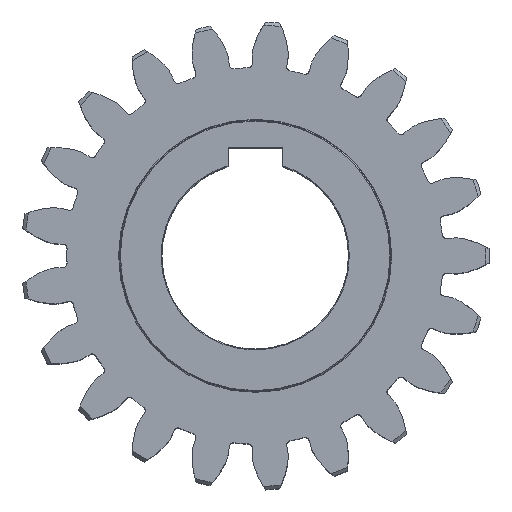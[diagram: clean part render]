
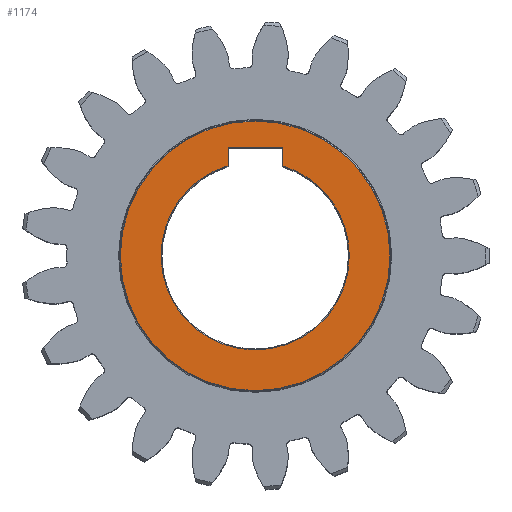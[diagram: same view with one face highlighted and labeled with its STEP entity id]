
A CAD part, top view. The second image highlights one B-rep face of the part: STEP entity #1174.
In plain terms, the highlighted planar face has unit normal (0, 0, 1).
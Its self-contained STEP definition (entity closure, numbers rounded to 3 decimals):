
#63 = CIRCLE ( 'NONE', #6399, 39.75 ) ;
#73 = VERTEX_POINT ( 'NONE', #9586 ) ;
#301 = DIRECTION ( 'NONE',  ( 1., 0., 0. ) ) ;
#316 = CARTESIAN_POINT ( 'NONE',  ( 8., 26.572, 35. ) ) ;
#499 = ORIENTED_EDGE ( 'NONE', *, *, #8110, .T. ) ;
#508 = VERTEX_POINT ( 'NONE', #5274 ) ;
#533 = CARTESIAN_POINT ( 'NONE',  ( 0., 0., 35. ) ) ;
#560 = CARTESIAN_POINT ( 'NONE',  ( 0., 0., 35. ) ) ;
#588 = LINE ( 'NONE', #7267, #2882 ) ;
#1006 = ORIENTED_EDGE ( 'NONE', *, *, #10257, .T. ) ;
#1174 = ADVANCED_FACE ( 'NONE', ( #8945, #13589 ), #12613, .T. ) ;
#1409 = CIRCLE ( 'NONE', #4936, 27.75 ) ;
#1431 = DIRECTION ( 'NONE',  ( 0., 0., -1. ) ) ;
#1481 = ORIENTED_EDGE ( 'NONE', *, *, #6646, .T. ) ;
#1568 = VERTEX_POINT ( 'NONE', #14392 ) ;
#1625 = DIRECTION ( 'NONE',  ( 1., 0., 0. ) ) ;
#1848 = CARTESIAN_POINT ( 'NONE',  ( -8., 26.572, 35. ) ) ;
#1851 = LINE ( 'NONE', #12819, #3758 ) ;
#1891 = ORIENTED_EDGE ( 'NONE', *, *, #10639, .T. ) ;
#2243 = CARTESIAN_POINT ( 'NONE',  ( 0., 0., 35. ) ) ;
#2464 = ORIENTED_EDGE ( 'NONE', *, *, #10659, .T. ) ;
#2469 = DIRECTION ( 'NONE',  ( 1., 0., 0. ) ) ;
#2776 = CARTESIAN_POINT ( 'NONE',  ( -8., 23.2, 35. ) ) ;
#2851 = LINE ( 'NONE', #2776, #11999 ) ;
#2882 = VECTOR ( 'NONE', #3892, 1000. ) ;
#2974 = CARTESIAN_POINT ( 'NONE',  ( 0., 0., 35. ) ) ;
#3127 = VERTEX_POINT ( 'NONE', #1848 ) ;
#3488 = DIRECTION ( 'NONE',  ( 0., 0., 1. ) ) ;
#3554 = CARTESIAN_POINT ( 'NONE',  ( -39.75, 0., 35. ) ) ;
#3758 = VECTOR ( 'NONE', #11950, 1000. ) ;
#3884 = EDGE_CURVE ( 'NONE', #508, #4853, #588, .T. ) ;
#3892 = DIRECTION ( 'NONE',  ( 0., -1., 0. ) ) ;
#4011 = DIRECTION ( 'NONE',  ( 1., 0., 0. ) ) ;
#4315 = ORIENTED_EDGE ( 'NONE', *, *, #3884, .T. ) ;
#4853 = VERTEX_POINT ( 'NONE', #316 ) ;
#4936 = AXIS2_PLACEMENT_3D ( 'NONE', #560, #7167, #4011 ) ;
#5181 = DIRECTION ( 'NONE',  ( 1., 0., 0. ) ) ;
#5274 = CARTESIAN_POINT ( 'NONE',  ( 8., 31.8, 35. ) ) ;
#5350 = DIRECTION ( 'NONE',  ( 0., 1., 0. ) ) ;
#5396 = EDGE_CURVE ( 'NONE', #4853, #7313, #1409, .T. ) ;
#5912 = CARTESIAN_POINT ( 'NONE',  ( 0., 0., 35. ) ) ;
#5951 = CARTESIAN_POINT ( 'NONE',  ( 0., 0., 35. ) ) ;
#6080 = AXIS2_PLACEMENT_3D ( 'NONE', #2974, #6427, #5181 ) ;
#6399 = AXIS2_PLACEMENT_3D ( 'NONE', #5951, #12658, #301 ) ;
#6427 = DIRECTION ( 'NONE',  ( 0., 0., 1. ) ) ;
#6583 = EDGE_CURVE ( 'NONE', #3127, #9285, #2851, .T. ) ;
#6646 = EDGE_CURVE ( 'NONE', #7313, #73, #8930, .T. ) ;
#7036 = AXIS2_PLACEMENT_3D ( 'NONE', #5912, #1431, #2469 ) ;
#7167 = DIRECTION ( 'NONE',  ( 0., 0., -1. ) ) ;
#7267 = CARTESIAN_POINT ( 'NONE',  ( 8., 23.2, 35. ) ) ;
#7313 = VERTEX_POINT ( 'NONE', #12370 ) ;
#7445 = DIRECTION ( 'NONE',  ( 0., 0., -1. ) ) ;
#7920 = AXIS2_PLACEMENT_3D ( 'NONE', #2243, #3488, #10332 ) ;
#8110 = EDGE_CURVE ( 'NONE', #13654, #1568, #63, .T. ) ;
#8437 = ORIENTED_EDGE ( 'NONE', *, *, #5396, .T. ) ;
#8702 = CIRCLE ( 'NONE', #14361, 27.75 ) ;
#8930 = CIRCLE ( 'NONE', #7036, 27.75 ) ;
#8945 = FACE_OUTER_BOUND ( 'NONE', #13945, .T. ) ;
#8953 = ORIENTED_EDGE ( 'NONE', *, *, #6583, .T. ) ;
#9285 = VERTEX_POINT ( 'NONE', #13797 ) ;
#9586 = CARTESIAN_POINT ( 'NONE',  ( -27.75, 0., 35. ) ) ;
#10257 = EDGE_CURVE ( 'NONE', #1568, #13654, #12449, .T. ) ;
#10332 = DIRECTION ( 'NONE',  ( 1., 0., 0. ) ) ;
#10639 = EDGE_CURVE ( 'NONE', #9285, #508, #1851, .T. ) ;
#10659 = EDGE_CURVE ( 'NONE', #73, #3127, #8702, .T. ) ;
#11287 = EDGE_LOOP ( 'NONE', ( #4315, #8437, #1481, #2464, #8953, #1891 ) ) ;
#11950 = DIRECTION ( 'NONE',  ( 1., 0., 0. ) ) ;
#11999 = VECTOR ( 'NONE', #5350, 1000. ) ;
#12370 = CARTESIAN_POINT ( 'NONE',  ( 27.75, 0., 35. ) ) ;
#12449 = CIRCLE ( 'NONE', #6080, 39.75 ) ;
#12613 = PLANE ( 'NONE',  #7920 ) ;
#12658 = DIRECTION ( 'NONE',  ( 0., 0., 1. ) ) ;
#12819 = CARTESIAN_POINT ( 'NONE',  ( 8., 31.8, 35. ) ) ;
#13589 = FACE_BOUND ( 'NONE', #11287, .T. ) ;
#13654 = VERTEX_POINT ( 'NONE', #3554 ) ;
#13797 = CARTESIAN_POINT ( 'NONE',  ( -8., 31.8, 35. ) ) ;
#13945 = EDGE_LOOP ( 'NONE', ( #499, #1006 ) ) ;
#14361 = AXIS2_PLACEMENT_3D ( 'NONE', #533, #7445, #1625 ) ;
#14392 = CARTESIAN_POINT ( 'NONE',  ( 39.75, 0., 35. ) ) ;
